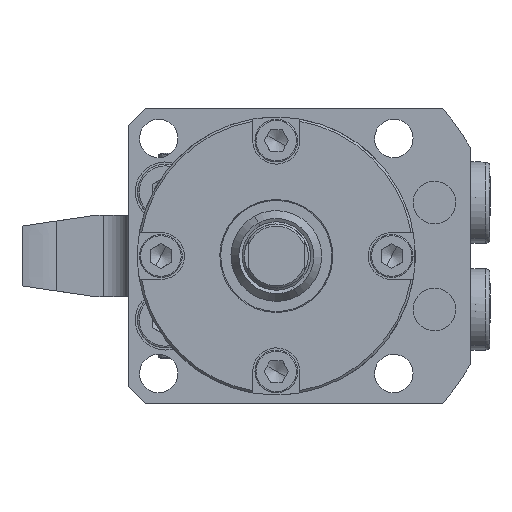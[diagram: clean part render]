
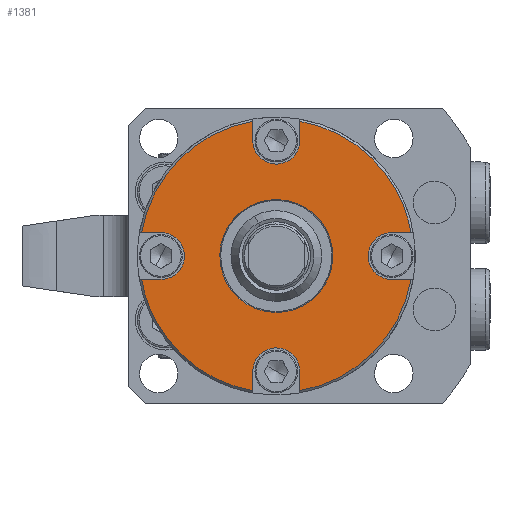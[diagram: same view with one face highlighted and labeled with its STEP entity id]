
A CAD part, front view. The second image highlights one B-rep face of the part: STEP entity #1381.
In plain terms, the highlighted planar face has unit normal (0, -1, 0).
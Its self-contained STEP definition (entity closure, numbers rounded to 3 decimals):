
#402=CARTESIAN_POINT('Vertex',(-31.524,-79.,-5.5)) ;
#418=CARTESIAN_POINT('Vertex',(-28.083,-79.,-15.342)) ;
#421=CARTESIAN_POINT('Axis2P3D Location',(0.,-79.,0.)) ;
#513=CARTESIAN_POINT('Vertex',(11.597,-79.,6.335)) ;
#529=CARTESIAN_POINT('Vertex',(-11.597,-79.,-6.335)) ;
#532=CARTESIAN_POINT('Axis2P3D Location',(0.,-79.,0.)) ;
#549=CARTESIAN_POINT('Axis2P3D Location',(0.,-79.,0.)) ;
#958=CARTESIAN_POINT('Vertex',(-27.,-79.,5.5)) ;
#961=CARTESIAN_POINT('Line Origine',(-29.262,-79.,5.5)) ;
#965=CARTESIAN_POINT('Vertex',(-31.524,-79.,5.5)) ;
#1000=CARTESIAN_POINT('Vertex',(-27.,-79.,-5.5)) ;
#1017=CARTESIAN_POINT('Line Origine',(-29.262,-79.,-5.5)) ;
#1041=CARTESIAN_POINT('Vertex',(-22.173,-79.,-2.637)) ;
#1049=CARTESIAN_POINT('Axis2P3D Location',(-27.,-79.,0.)) ;
#1061=CARTESIAN_POINT('Axis2P3D Location',(-27.,-79.,0.)) ;
#1109=CARTESIAN_POINT('Vertex',(27.,-79.,5.5)) ;
#1114=CARTESIAN_POINT('Axis2P3D Location',(27.,-79.,0.)) ;
#1118=CARTESIAN_POINT('Vertex',(22.173,-79.,2.637)) ;
#1149=CARTESIAN_POINT('Vertex',(-5.5,-79.,-27.)) ;
#1165=CARTESIAN_POINT('Vertex',(2.637,-79.,-22.173)) ;
#1168=CARTESIAN_POINT('Axis2P3D Location',(0.,-79.,-27.)) ;
#1184=CARTESIAN_POINT('Vertex',(5.5,-79.,-27.)) ;
#1189=CARTESIAN_POINT('Axis2P3D Location',(0.,-79.,-27.)) ;
#1210=CARTESIAN_POINT('Vertex',(27.,-79.,-5.5)) ;
#1220=CARTESIAN_POINT('Axis2P3D Location',(27.,-79.,0.)) ;
#1241=CARTESIAN_POINT('Vertex',(5.5,-79.,27.)) ;
#1257=CARTESIAN_POINT('Vertex',(-2.637,-79.,22.173)) ;
#1260=CARTESIAN_POINT('Axis2P3D Location',(0.,-79.,27.)) ;
#1272=CARTESIAN_POINT('Axis2P3D Location',(-32.5,-79.,0.)) ;
#1277=CARTESIAN_POINT('Line Origine',(5.5,-79.,-29.262)) ;
#1281=CARTESIAN_POINT('Vertex',(5.5,-79.,-31.524)) ;
#1284=CARTESIAN_POINT('Axis2P3D Location',(0.,-79.,0.)) ;
#1288=CARTESIAN_POINT('Vertex',(31.524,-79.,-5.5)) ;
#1291=CARTESIAN_POINT('Line Origine',(29.262,-79.,-5.5)) ;
#1296=CARTESIAN_POINT('Line Origine',(29.262,-79.,5.5)) ;
#1300=CARTESIAN_POINT('Vertex',(31.524,-79.,5.5)) ;
#1303=CARTESIAN_POINT('Axis2P3D Location',(0.,-79.,0.)) ;
#1307=CARTESIAN_POINT('Vertex',(28.083,-79.,15.342)) ;
#1310=CARTESIAN_POINT('Axis2P3D Location',(0.,-79.,0.)) ;
#1314=CARTESIAN_POINT('Vertex',(5.5,-79.,31.524)) ;
#1317=CARTESIAN_POINT('Line Origine',(5.5,-79.,29.262)) ;
#1322=CARTESIAN_POINT('Axis2P3D Location',(0.,-79.,27.)) ;
#1326=CARTESIAN_POINT('Vertex',(-5.5,-79.,27.)) ;
#1329=CARTESIAN_POINT('Line Origine',(-5.5,-79.,29.262)) ;
#1333=CARTESIAN_POINT('Vertex',(-5.5,-79.,31.524)) ;
#1336=CARTESIAN_POINT('Axis2P3D Location',(0.,-79.,0.)) ;
#1341=CARTESIAN_POINT('Axis2P3D Location',(0.,-79.,0.)) ;
#1345=CARTESIAN_POINT('Vertex',(-5.5,-79.,-31.524)) ;
#1348=CARTESIAN_POINT('Line Origine',(-5.5,-79.,-29.262)) ;
#422=DIRECTION('Axis2P3D Direction',(0.,-1.,0.)) ;
#533=DIRECTION('Axis2P3D Direction',(0.,-1.,0.)) ;
#550=DIRECTION('Axis2P3D Direction',(0.,-1.,0.)) ;
#962=DIRECTION('Vector Direction',(1.,0.,0.)) ;
#1018=DIRECTION('Vector Direction',(1.,0.,0.)) ;
#1050=DIRECTION('Axis2P3D Direction',(0.,-1.,0.)) ;
#1062=DIRECTION('Axis2P3D Direction',(0.,-1.,0.)) ;
#1115=DIRECTION('Axis2P3D Direction',(0.,1.,0.)) ;
#1169=DIRECTION('Axis2P3D Direction',(0.,1.,0.)) ;
#1190=DIRECTION('Axis2P3D Direction',(0.,1.,0.)) ;
#1221=DIRECTION('Axis2P3D Direction',(0.,1.,0.)) ;
#1261=DIRECTION('Axis2P3D Direction',(0.,1.,0.)) ;
#1273=DIRECTION('Axis2P3D Direction',(0.,-1.,0.)) ;
#1274=DIRECTION('Axis2P3D XDirection',(1.,0.,0.)) ;
#1278=DIRECTION('Vector Direction',(0.,0.,-1.)) ;
#1285=DIRECTION('Axis2P3D Direction',(0.,-1.,0.)) ;
#1292=DIRECTION('Vector Direction',(1.,0.,0.)) ;
#1297=DIRECTION('Vector Direction',(1.,0.,0.)) ;
#1304=DIRECTION('Axis2P3D Direction',(0.,-1.,0.)) ;
#1311=DIRECTION('Axis2P3D Direction',(0.,-1.,0.)) ;
#1318=DIRECTION('Vector Direction',(0.,0.,1.)) ;
#1323=DIRECTION('Axis2P3D Direction',(0.,-1.,0.)) ;
#1330=DIRECTION('Vector Direction',(0.,0.,1.)) ;
#1337=DIRECTION('Axis2P3D Direction',(0.,-1.,0.)) ;
#1342=DIRECTION('Axis2P3D Direction',(0.,-1.,0.)) ;
#1349=DIRECTION('Vector Direction',(0.,0.,-1.)) ;
#423=AXIS2_PLACEMENT_3D('Circle Axis2P3D',#421,#422,$) ;
#534=AXIS2_PLACEMENT_3D('Circle Axis2P3D',#532,#533,$) ;
#551=AXIS2_PLACEMENT_3D('Circle Axis2P3D',#549,#550,$) ;
#1051=AXIS2_PLACEMENT_3D('Circle Axis2P3D',#1049,#1050,$) ;
#1063=AXIS2_PLACEMENT_3D('Circle Axis2P3D',#1061,#1062,$) ;
#1116=AXIS2_PLACEMENT_3D('Circle Axis2P3D',#1114,#1115,$) ;
#1170=AXIS2_PLACEMENT_3D('Circle Axis2P3D',#1168,#1169,$) ;
#1191=AXIS2_PLACEMENT_3D('Circle Axis2P3D',#1189,#1190,$) ;
#1222=AXIS2_PLACEMENT_3D('Circle Axis2P3D',#1220,#1221,$) ;
#1262=AXIS2_PLACEMENT_3D('Circle Axis2P3D',#1260,#1261,$) ;
#1275=AXIS2_PLACEMENT_3D('Plane Axis2P3D',#1272,#1273,#1274) ;
#1286=AXIS2_PLACEMENT_3D('Circle Axis2P3D',#1284,#1285,$) ;
#1305=AXIS2_PLACEMENT_3D('Circle Axis2P3D',#1303,#1304,$) ;
#1312=AXIS2_PLACEMENT_3D('Circle Axis2P3D',#1310,#1311,$) ;
#1324=AXIS2_PLACEMENT_3D('Circle Axis2P3D',#1322,#1323,$) ;
#1338=AXIS2_PLACEMENT_3D('Circle Axis2P3D',#1336,#1337,$) ;
#1343=AXIS2_PLACEMENT_3D('Circle Axis2P3D',#1341,#1342,$) ;
#1354=ORIENTED_EDGE('',*,*,#1172,.T.) ;
#1355=ORIENTED_EDGE('',*,*,#1193,.T.) ;
#1356=ORIENTED_EDGE('',*,*,#1283,.T.) ;
#1357=ORIENTED_EDGE('',*,*,#1290,.T.) ;
#1358=ORIENTED_EDGE('',*,*,#1295,.F.) ;
#1359=ORIENTED_EDGE('',*,*,#1224,.T.) ;
#1360=ORIENTED_EDGE('',*,*,#1120,.T.) ;
#1361=ORIENTED_EDGE('',*,*,#1302,.T.) ;
#1362=ORIENTED_EDGE('',*,*,#1309,.T.) ;
#1363=ORIENTED_EDGE('',*,*,#1316,.T.) ;
#1364=ORIENTED_EDGE('',*,*,#1321,.F.) ;
#1365=ORIENTED_EDGE('',*,*,#1264,.T.) ;
#1366=ORIENTED_EDGE('',*,*,#1328,.T.) ;
#1367=ORIENTED_EDGE('',*,*,#1335,.T.) ;
#1368=ORIENTED_EDGE('',*,*,#1340,.T.) ;
#1369=ORIENTED_EDGE('',*,*,#967,.T.) ;
#1370=ORIENTED_EDGE('',*,*,#1065,.T.) ;
#1371=ORIENTED_EDGE('',*,*,#1053,.T.) ;
#1372=ORIENTED_EDGE('',*,*,#1021,.F.) ;
#1373=ORIENTED_EDGE('',*,*,#425,.T.) ;
#1374=ORIENTED_EDGE('',*,*,#1347,.T.) ;
#1375=ORIENTED_EDGE('',*,*,#1352,.F.) ;
#1378=ORIENTED_EDGE('',*,*,#536,.F.) ;
#1379=ORIENTED_EDGE('',*,*,#553,.F.) ;
#1380=FACE_BOUND('',#1377,.T.) ;
#963=VECTOR('Line Direction',#962,1.) ;
#1019=VECTOR('Line Direction',#1018,1.) ;
#1279=VECTOR('Line Direction',#1278,1.) ;
#1293=VECTOR('Line Direction',#1292,1.) ;
#1298=VECTOR('Line Direction',#1297,1.) ;
#1319=VECTOR('Line Direction',#1318,1.) ;
#1331=VECTOR('Line Direction',#1330,1.) ;
#1350=VECTOR('Line Direction',#1349,1.) ;
#1381=ADVANCED_FACE('BODY',(#1376,#1380),#1276,.T.) ;
#424=CIRCLE('generated circle',#423,32.) ;
#535=CIRCLE('generated circle',#534,13.214) ;
#552=CIRCLE('generated circle',#551,13.214) ;
#1052=CIRCLE('generated circle',#1051,5.5) ;
#1064=CIRCLE('generated circle',#1063,5.5) ;
#1117=CIRCLE('generated circle',#1116,5.5) ;
#1171=CIRCLE('generated circle',#1170,5.5) ;
#1192=CIRCLE('generated circle',#1191,5.5) ;
#1223=CIRCLE('generated circle',#1222,5.5) ;
#1263=CIRCLE('generated circle',#1262,5.5) ;
#1287=CIRCLE('generated circle',#1286,32.) ;
#1306=CIRCLE('generated circle',#1305,32.) ;
#1313=CIRCLE('generated circle',#1312,32.) ;
#1325=CIRCLE('generated circle',#1324,5.5) ;
#1339=CIRCLE('generated circle',#1338,32.) ;
#1344=CIRCLE('generated circle',#1343,32.) ;
#425=EDGE_CURVE('',#403,#419,#424,.T.) ;
#536=EDGE_CURVE('',#530,#514,#535,.T.) ;
#553=EDGE_CURVE('',#514,#530,#552,.T.) ;
#967=EDGE_CURVE('',#966,#959,#964,.T.) ;
#1021=EDGE_CURVE('',#403,#1001,#1020,.T.) ;
#1053=EDGE_CURVE('',#1042,#1001,#1052,.F.) ;
#1065=EDGE_CURVE('',#959,#1042,#1064,.F.) ;
#1120=EDGE_CURVE('',#1119,#1110,#1117,.T.) ;
#1172=EDGE_CURVE('',#1150,#1166,#1171,.T.) ;
#1193=EDGE_CURVE('',#1166,#1185,#1192,.T.) ;
#1224=EDGE_CURVE('',#1211,#1119,#1223,.T.) ;
#1264=EDGE_CURVE('',#1242,#1258,#1263,.T.) ;
#1283=EDGE_CURVE('',#1185,#1282,#1280,.T.) ;
#1290=EDGE_CURVE('',#1282,#1289,#1287,.T.) ;
#1295=EDGE_CURVE('',#1211,#1289,#1294,.T.) ;
#1302=EDGE_CURVE('',#1110,#1301,#1299,.T.) ;
#1309=EDGE_CURVE('',#1301,#1308,#1306,.T.) ;
#1316=EDGE_CURVE('',#1308,#1315,#1313,.T.) ;
#1321=EDGE_CURVE('',#1242,#1315,#1320,.T.) ;
#1328=EDGE_CURVE('',#1258,#1327,#1325,.F.) ;
#1335=EDGE_CURVE('',#1327,#1334,#1332,.T.) ;
#1340=EDGE_CURVE('',#1334,#966,#1339,.T.) ;
#1347=EDGE_CURVE('',#419,#1346,#1344,.T.) ;
#1352=EDGE_CURVE('',#1150,#1346,#1351,.T.) ;
#1353=EDGE_LOOP('',(#1354,#1355,#1356,#1357,#1358,#1359,#1360,#1361,#1362,#1363,#1364,#1365,#1366,#1367,#1368,#1369,#1370,#1371,#1372,#1373,#1374,#1375)) ;
#1377=EDGE_LOOP('',(#1378,#1379)) ;
#1376=FACE_OUTER_BOUND('',#1353,.T.) ;
#964=LINE('Line',#961,#963) ;
#1020=LINE('Line',#1017,#1019) ;
#1280=LINE('Line',#1277,#1279) ;
#1294=LINE('Line',#1291,#1293) ;
#1299=LINE('Line',#1296,#1298) ;
#1320=LINE('Line',#1317,#1319) ;
#1332=LINE('Line',#1329,#1331) ;
#1351=LINE('Line',#1348,#1350) ;
#1276=PLANE('Plane',#1275) ;
#403=VERTEX_POINT('',#402) ;
#419=VERTEX_POINT('',#418) ;
#514=VERTEX_POINT('',#513) ;
#530=VERTEX_POINT('',#529) ;
#959=VERTEX_POINT('',#958) ;
#966=VERTEX_POINT('',#965) ;
#1001=VERTEX_POINT('',#1000) ;
#1042=VERTEX_POINT('',#1041) ;
#1110=VERTEX_POINT('',#1109) ;
#1119=VERTEX_POINT('',#1118) ;
#1150=VERTEX_POINT('',#1149) ;
#1166=VERTEX_POINT('',#1165) ;
#1185=VERTEX_POINT('',#1184) ;
#1211=VERTEX_POINT('',#1210) ;
#1242=VERTEX_POINT('',#1241) ;
#1258=VERTEX_POINT('',#1257) ;
#1282=VERTEX_POINT('',#1281) ;
#1289=VERTEX_POINT('',#1288) ;
#1301=VERTEX_POINT('',#1300) ;
#1308=VERTEX_POINT('',#1307) ;
#1315=VERTEX_POINT('',#1314) ;
#1327=VERTEX_POINT('',#1326) ;
#1334=VERTEX_POINT('',#1333) ;
#1346=VERTEX_POINT('',#1345) ;
